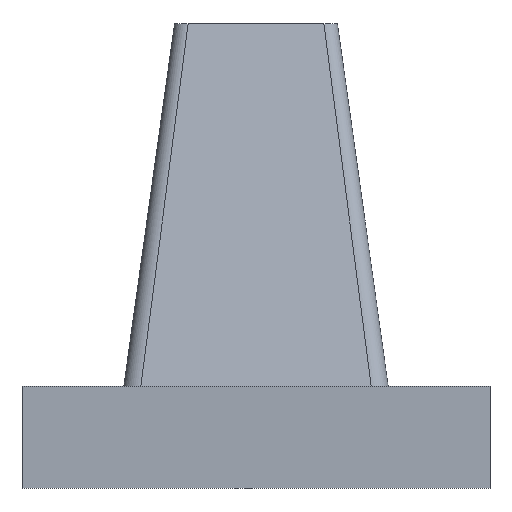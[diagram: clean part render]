
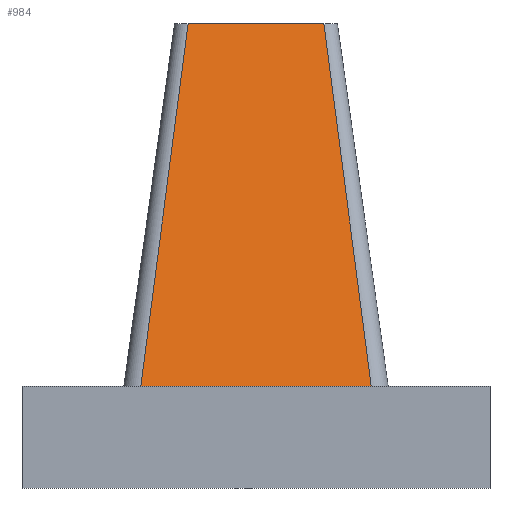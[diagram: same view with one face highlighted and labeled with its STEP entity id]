
A CAD part, front view. The second image highlights one B-rep face of the part: STEP entity #984.
In plain terms, the highlighted free-form (B-spline) face has degree [1, 1] with [2, 2] control points.
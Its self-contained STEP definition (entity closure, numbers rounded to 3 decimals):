
#43 = PLANE('',#44);
#44 = AXIS2_PLACEMENT_3D('',#45,#46,#47);
#45 = CARTESIAN_POINT('',(-2.,-0.2,13.71));
#46 = DIRECTION('',(0.,0.,-1.));
#47 = DIRECTION('',(1.,0.,0.));
#108 = PLANE('',#109);
#109 = AXIS2_PLACEMENT_3D('',#110,#111,#112);
#110 = CARTESIAN_POINT('',(-6.9,-6.1,3.01));
#111 = DIRECTION('',(0.,0.,1.));
#112 = DIRECTION('',(1.,0.,-0.));
#132 = B_SPLINE_SURFACE_WITH_KNOTS('',7,1,(
    (#133,#134)
    ,(#135,#136)
    ,(#137,#138)
    ,(#139,#140)
    ,(#141,#142)
    ,(#143,#144)
    ,(#145,#146)
    ,(#147,#148
    )),.UNSPECIFIED.,.F.,.F.,.F.,(8,8),(2,2),(1.571,
    3.142),(0.,1.),.PIECEWISE_BEZIER_KNOTS.);
#133 = CARTESIAN_POINT('',(-2.,-0.6,13.71));
#134 = CARTESIAN_POINT('',(-3.4,-3.1,3.));
#135 = CARTESIAN_POINT('',(-2.09,-0.6,13.71));
#136 = CARTESIAN_POINT('',(-3.512,-3.1,3.));
#137 = CARTESIAN_POINT('',(-2.18,-0.577,13.71));
#138 = CARTESIAN_POINT('',(-3.624,-3.071,3.));
#139 = CARTESIAN_POINT('',(-2.262,-0.53,13.71));
#140 = CARTESIAN_POINT('',(-3.727,-3.012,3.));
#141 = CARTESIAN_POINT('',(-2.33,-0.462,13.71));
#142 = CARTESIAN_POINT('',(-3.812,-2.927,3.));
#143 = CARTESIAN_POINT('',(-2.377,-0.38,13.71));
#144 = CARTESIAN_POINT('',(-3.871,-2.824,3.));
#145 = CARTESIAN_POINT('',(-2.4,-0.29,13.71));
#146 = CARTESIAN_POINT('',(-3.9,-2.712,3.));
#147 = CARTESIAN_POINT('',(-2.4,-0.2,13.71));
#148 = CARTESIAN_POINT('',(-3.9,-2.6,3.));
#280 = VERTEX_POINT('',#281);
#281 = CARTESIAN_POINT('',(2.,-0.6,13.71));
#296 = B_SPLINE_SURFACE_WITH_KNOTS('',7,1,(
    (#297,#298)
    ,(#299,#300)
    ,(#301,#302)
    ,(#303,#304)
    ,(#305,#306)
    ,(#307,#308)
    ,(#309,#310)
    ,(#311,#312
    )),.UNSPECIFIED.,.F.,.F.,.F.,(8,8),(2,2),(0.,1.571),(0.,1.)
  ,.PIECEWISE_BEZIER_KNOTS.);
#297 = CARTESIAN_POINT('',(2.4,-0.2,13.71));
#298 = CARTESIAN_POINT('',(3.9,-2.6,3.));
#299 = CARTESIAN_POINT('',(2.4,-0.29,13.71));
#300 = CARTESIAN_POINT('',(3.9,-2.712,3.));
#301 = CARTESIAN_POINT('',(2.377,-0.38,13.71));
#302 = CARTESIAN_POINT('',(3.871,-2.824,3.));
#303 = CARTESIAN_POINT('',(2.33,-0.462,13.71));
#304 = CARTESIAN_POINT('',(3.812,-2.927,3.));
#305 = CARTESIAN_POINT('',(2.262,-0.53,13.71));
#306 = CARTESIAN_POINT('',(3.727,-3.012,3.));
#307 = CARTESIAN_POINT('',(2.18,-0.577,13.71));
#308 = CARTESIAN_POINT('',(3.624,-3.071,3.));
#309 = CARTESIAN_POINT('',(2.09,-0.6,13.71));
#310 = CARTESIAN_POINT('',(3.512,-3.1,3.));
#311 = CARTESIAN_POINT('',(2.,-0.6,13.71));
#312 = CARTESIAN_POINT('',(3.4,-3.1,3.));
#320 = EDGE_CURVE('',#321,#280,#323,.T.);
#321 = VERTEX_POINT('',#322);
#322 = CARTESIAN_POINT('',(-2.,-0.6,13.71));
#323 = SURFACE_CURVE('',#324,(#328,#335),.PCURVE_S1.);
#324 = LINE('',#325,#326);
#325 = CARTESIAN_POINT('',(0.,-0.6,13.71));
#326 = VECTOR('',#327,1.);
#327 = DIRECTION('',(1.,0.,0.));
#328 = PCURVE('',#43,#329);
#329 = DEFINITIONAL_REPRESENTATION('',(#330),#334);
#330 = LINE('',#331,#332);
#331 = CARTESIAN_POINT('',(2.,0.4));
#332 = VECTOR('',#333,1.);
#333 = DIRECTION('',(1.,0.));
#334 = ( GEOMETRIC_REPRESENTATION_CONTEXT(2) 
PARAMETRIC_REPRESENTATION_CONTEXT() REPRESENTATION_CONTEXT('2D SPACE',''
  ) );
#335 = PCURVE('',#336,#341);
#336 = B_SPLINE_SURFACE_WITH_KNOTS('',1,1,(
    (#337,#338)
    ,(#339,#340
    )),.UNSPECIFIED.,.F.,.F.,.F.,(2,2),(2,2),(-3.4,3.4),(0.,1.),
  .PIECEWISE_BEZIER_KNOTS.);
#337 = CARTESIAN_POINT('',(2.,-0.6,13.71));
#338 = CARTESIAN_POINT('',(3.4,-3.1,3.));
#339 = CARTESIAN_POINT('',(-2.,-0.6,13.71));
#340 = CARTESIAN_POINT('',(-3.4,-3.1,3.));
#341 = DEFINITIONAL_REPRESENTATION('',(#342),#345);
#342 = B_SPLINE_CURVE_WITH_KNOTS('',1,(#343,#344),.UNSPECIFIED.,.F.,.F.,
  (2,2),(-2.,2.),.PIECEWISE_BEZIER_KNOTS.);
#343 = CARTESIAN_POINT('',(3.4,0.));
#344 = CARTESIAN_POINT('',(-3.4,0.));
#345 = ( GEOMETRIC_REPRESENTATION_CONTEXT(2) 
PARAMETRIC_REPRESENTATION_CONTEXT() REPRESENTATION_CONTEXT('2D SPACE',''
  ) );
#372 = EDGE_CURVE('',#321,#373,#375,.T.);
#373 = VERTEX_POINT('',#374);
#374 = CARTESIAN_POINT('',(-3.399,-3.098,3.01));
#375 = SURFACE_CURVE('',#376,(#379,#386),.PCURVE_S1.);
#376 = B_SPLINE_CURVE_WITH_KNOTS('',1,(#377,#378),.UNSPECIFIED.,.F.,.F.,
  (2,2),(0.,1.),.PIECEWISE_BEZIER_KNOTS.);
#377 = CARTESIAN_POINT('',(-2.,-0.6,13.71));
#378 = CARTESIAN_POINT('',(-3.4,-3.1,3.));
#379 = PCURVE('',#132,#380);
#380 = DEFINITIONAL_REPRESENTATION('',(#381),#385);
#381 = LINE('',#382,#383);
#382 = CARTESIAN_POINT('',(1.571,0.));
#383 = VECTOR('',#384,1.);
#384 = DIRECTION('',(0.,1.));
#385 = ( GEOMETRIC_REPRESENTATION_CONTEXT(2) 
PARAMETRIC_REPRESENTATION_CONTEXT() REPRESENTATION_CONTEXT('2D SPACE',''
  ) );
#386 = PCURVE('',#336,#387);
#387 = DEFINITIONAL_REPRESENTATION('',(#388),#392);
#388 = LINE('',#389,#390);
#389 = CARTESIAN_POINT('',(3.4,0.));
#390 = VECTOR('',#391,1.);
#391 = DIRECTION('',(0.,1.));
#392 = ( GEOMETRIC_REPRESENTATION_CONTEXT(2) 
PARAMETRIC_REPRESENTATION_CONTEXT() REPRESENTATION_CONTEXT('2D SPACE',''
  ) );
#769 = VERTEX_POINT('',#770);
#770 = CARTESIAN_POINT('',(3.399,-3.098,3.01));
#836 = EDGE_CURVE('',#373,#769,#837,.T.);
#837 = SURFACE_CURVE('',#838,(#841,#847),.PCURVE_S1.);
#838 = B_SPLINE_CURVE_WITH_KNOTS('',1,(#839,#840),.UNSPECIFIED.,.F.,.F.,
  (2,2),(0.,1.),.PIECEWISE_BEZIER_KNOTS.);
#839 = CARTESIAN_POINT('',(-3.399,-3.098,3.01));
#840 = CARTESIAN_POINT('',(3.399,-3.098,3.01));
#841 = PCURVE('',#108,#842);
#842 = DEFINITIONAL_REPRESENTATION('',(#843),#846);
#843 = B_SPLINE_CURVE_WITH_KNOTS('',1,(#844,#845),.UNSPECIFIED.,.F.,.F.,
  (2,2),(0.,1.),.PIECEWISE_BEZIER_KNOTS.);
#844 = CARTESIAN_POINT('',(3.501,3.002));
#845 = CARTESIAN_POINT('',(10.299,3.002));
#846 = ( GEOMETRIC_REPRESENTATION_CONTEXT(2) 
PARAMETRIC_REPRESENTATION_CONTEXT() REPRESENTATION_CONTEXT('2D SPACE',''
  ) );
#847 = PCURVE('',#336,#848);
#848 = DEFINITIONAL_REPRESENTATION('',(#849),#852);
#849 = B_SPLINE_CURVE_WITH_KNOTS('',1,(#850,#851),.UNSPECIFIED.,.F.,.F.,
  (2,2),(0.,1.),.PIECEWISE_BEZIER_KNOTS.);
#850 = CARTESIAN_POINT('',(3.4,0.999));
#851 = CARTESIAN_POINT('',(-3.4,0.999));
#852 = ( GEOMETRIC_REPRESENTATION_CONTEXT(2) 
PARAMETRIC_REPRESENTATION_CONTEXT() REPRESENTATION_CONTEXT('2D SPACE',''
  ) );
#964 = EDGE_CURVE('',#280,#769,#965,.T.);
#965 = SURFACE_CURVE('',#966,(#969,#976),.PCURVE_S1.);
#966 = B_SPLINE_CURVE_WITH_KNOTS('',1,(#967,#968),.UNSPECIFIED.,.F.,.F.,
  (2,2),(0.,1.),.PIECEWISE_BEZIER_KNOTS.);
#967 = CARTESIAN_POINT('',(2.,-0.6,13.71));
#968 = CARTESIAN_POINT('',(3.4,-3.1,3.));
#969 = PCURVE('',#296,#970);
#970 = DEFINITIONAL_REPRESENTATION('',(#971),#975);
#971 = LINE('',#972,#973);
#972 = CARTESIAN_POINT('',(1.571,0.));
#973 = VECTOR('',#974,1.);
#974 = DIRECTION('',(0.,1.));
#975 = ( GEOMETRIC_REPRESENTATION_CONTEXT(2) 
PARAMETRIC_REPRESENTATION_CONTEXT() REPRESENTATION_CONTEXT('2D SPACE',''
  ) );
#976 = PCURVE('',#336,#977);
#977 = DEFINITIONAL_REPRESENTATION('',(#978),#982);
#978 = LINE('',#979,#980);
#979 = CARTESIAN_POINT('',(-3.4,0.));
#980 = VECTOR('',#981,1.);
#981 = DIRECTION('',(0.,1.));
#982 = ( GEOMETRIC_REPRESENTATION_CONTEXT(2) 
PARAMETRIC_REPRESENTATION_CONTEXT() REPRESENTATION_CONTEXT('2D SPACE',''
  ) );
#984 = ADVANCED_FACE('',(#985),#336,.T.);
#985 = FACE_BOUND('',#986,.T.);
#986 = EDGE_LOOP('',(#987,#988,#989,#990));
#987 = ORIENTED_EDGE('',*,*,#320,.F.);
#988 = ORIENTED_EDGE('',*,*,#372,.T.);
#989 = ORIENTED_EDGE('',*,*,#836,.T.);
#990 = ORIENTED_EDGE('',*,*,#964,.F.);
